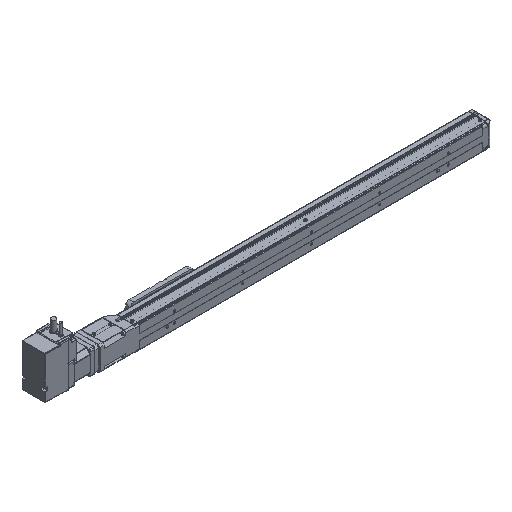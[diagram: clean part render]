
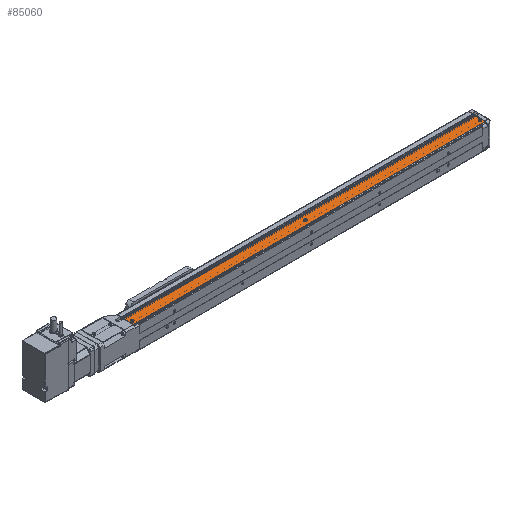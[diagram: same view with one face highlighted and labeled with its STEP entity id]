
A CAD part, isometric view. The second image highlights one B-rep face of the part: STEP entity #85060.
In plain terms, the highlighted planar face has unit normal (0, 0, 1).
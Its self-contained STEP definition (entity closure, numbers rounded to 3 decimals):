
#68324 = PLANE('',#68325);
#68325 = AXIS2_PLACEMENT_3D('',#68326,#68327,#68328);
#68326 = CARTESIAN_POINT('',(-626.5,1.25,21.3));
#68327 = DIRECTION('',(1.,0.,0.));
#68328 = DIRECTION('',(0.,0.,-1.));
#68723 = PLANE('',#68724);
#68724 = AXIS2_PLACEMENT_3D('',#68725,#68726,#68727);
#68725 = CARTESIAN_POINT('',(-9.5,1.25,21.3));
#68726 = DIRECTION('',(1.,0.,0.));
#68727 = DIRECTION('',(0.,0.,-1.));
#84949 = CYLINDRICAL_SURFACE('',#84950,1.);
#84950 = AXIS2_PLACEMENT_3D('',#84951,#84952,#84953);
#84951 = CARTESIAN_POINT('',(-626.5,-20.734,20.5));
#84952 = DIRECTION('',(1.,0.,0.));
#84953 = DIRECTION('',(0.,0.,-1.));
#84987 = VERTEX_POINT('',#84988);
#84988 = CARTESIAN_POINT('',(-9.5,-20.734,21.5));
#85010 = EDGE_CURVE('',#85011,#84987,#85013,.T.);
#85011 = VERTEX_POINT('',#85012);
#85012 = CARTESIAN_POINT('',(-626.5,-20.734,21.5));
#85013 = SURFACE_CURVE('',#85014,(#85018,#85025),.PCURVE_S1.);
#85014 = LINE('',#85015,#85016);
#85015 = CARTESIAN_POINT('',(-626.5,-20.734,21.5));
#85016 = VECTOR('',#85017,1.);
#85017 = DIRECTION('',(1.,0.,0.));
#85018 = PCURVE('',#84949,#85019);
#85019 = DEFINITIONAL_REPRESENTATION('',(#85020),#85024);
#85020 = LINE('',#85021,#85022);
#85021 = CARTESIAN_POINT('',(3.142,0.));
#85022 = VECTOR('',#85023,1.);
#85023 = DIRECTION('',(0.,1.));
#85024 = ( GEOMETRIC_REPRESENTATION_CONTEXT(2) 
PARAMETRIC_REPRESENTATION_CONTEXT() REPRESENTATION_CONTEXT('2D SPACE',''
  ) );
#85025 = PCURVE('',#85026,#85031);
#85026 = PLANE('',#85027);
#85027 = AXIS2_PLACEMENT_3D('',#85028,#85029,#85030);
#85028 = CARTESIAN_POINT('',(-626.5,-2.65,21.5));
#85029 = DIRECTION('',(0.,0.,1.));
#85030 = DIRECTION('',(1.,0.,-0.));
#85031 = DEFINITIONAL_REPRESENTATION('',(#85032),#85036);
#85032 = LINE('',#85033,#85034);
#85033 = CARTESIAN_POINT('',(0.,-18.084));
#85034 = VECTOR('',#85035,1.);
#85035 = DIRECTION('',(1.,0.));
#85036 = ( GEOMETRIC_REPRESENTATION_CONTEXT(2) 
PARAMETRIC_REPRESENTATION_CONTEXT() REPRESENTATION_CONTEXT('2D SPACE',''
  ) );
#85060 = ADVANCED_FACE('',(#85061,#85096,#85127,#85158),#85026,.T.);
#85061 = FACE_BOUND('',#85062,.T.);
#85062 = EDGE_LOOP('',(#85063));
#85063 = ORIENTED_EDGE('',*,*,#85064,.T.);
#85064 = EDGE_CURVE('',#85065,#85065,#85067,.T.);
#85065 = VERTEX_POINT('',#85066);
#85066 = CARTESIAN_POINT('',(-320.25,-13.5,21.5));
#85067 = SURFACE_CURVE('',#85068,(#85073,#85084),.PCURVE_S1.);
#85068 = CIRCLE('',#85069,2.25);
#85069 = AXIS2_PLACEMENT_3D('',#85070,#85071,#85072);
#85070 = CARTESIAN_POINT('',(-318.,-13.5,21.5));
#85071 = DIRECTION('',(0.,0.,-1.));
#85072 = DIRECTION('',(-1.,0.,0.));
#85073 = PCURVE('',#85026,#85074);
#85074 = DEFINITIONAL_REPRESENTATION('',(#85075),#85083);
#85075 = ( BOUNDED_CURVE() B_SPLINE_CURVE(2,(#85076,#85077,#85078,#85079
    ,#85080,#85081,#85082),.UNSPECIFIED.,.T.,.F.) 
B_SPLINE_CURVE_WITH_KNOTS((1,2,2,2,2,1),(-2.094,0.,
    2.094,4.189,6.283,8.378),
.UNSPECIFIED.) CURVE() GEOMETRIC_REPRESENTATION_ITEM() 
RATIONAL_B_SPLINE_CURVE((1.,0.5,1.,0.5,1.,0.5,1.)) REPRESENTATION_ITEM(
  '') );
#85076 = CARTESIAN_POINT('',(306.25,-10.85));
#85077 = CARTESIAN_POINT('',(306.25,-6.953));
#85078 = CARTESIAN_POINT('',(309.625,-8.901));
#85079 = CARTESIAN_POINT('',(313.,-10.85));
#85080 = CARTESIAN_POINT('',(309.625,-12.799));
#85081 = CARTESIAN_POINT('',(306.25,-14.747));
#85082 = CARTESIAN_POINT('',(306.25,-10.85));
#85083 = ( GEOMETRIC_REPRESENTATION_CONTEXT(2) 
PARAMETRIC_REPRESENTATION_CONTEXT() REPRESENTATION_CONTEXT('2D SPACE',''
  ) );
#85084 = PCURVE('',#85085,#85090);
#85085 = CONICAL_SURFACE('',#85086,2.181,0.087);
#85086 = AXIS2_PLACEMENT_3D('',#85087,#85088,#85089);
#85087 = CARTESIAN_POINT('',(-318.,-13.5,22.289));
#85088 = DIRECTION('',(0.,0.,-1.));
#85089 = DIRECTION('',(-1.,0.,0.));
#85090 = DEFINITIONAL_REPRESENTATION('',(#85091),#85095);
#85091 = LINE('',#85092,#85093);
#85092 = CARTESIAN_POINT('',(0.,0.789));
#85093 = VECTOR('',#85094,1.);
#85094 = DIRECTION('',(1.,0.));
#85095 = ( GEOMETRIC_REPRESENTATION_CONTEXT(2) 
PARAMETRIC_REPRESENTATION_CONTEXT() REPRESENTATION_CONTEXT('2D SPACE',''
  ) );
#85096 = FACE_BOUND('',#85097,.T.);
#85097 = EDGE_LOOP('',(#85098));
#85098 = ORIENTED_EDGE('',*,*,#85099,.F.);
#85099 = EDGE_CURVE('',#85100,#85100,#85102,.T.);
#85100 = VERTEX_POINT('',#85101);
#85101 = CARTESIAN_POINT('',(-620.71,-14.5,21.5));
#85102 = SURFACE_CURVE('',#85103,(#85108,#85115),.PCURVE_S1.);
#85103 = CIRCLE('',#85104,2.29);
#85104 = AXIS2_PLACEMENT_3D('',#85105,#85106,#85107);
#85105 = CARTESIAN_POINT('',(-623.,-14.5,21.5));
#85106 = DIRECTION('',(0.,0.,1.));
#85107 = DIRECTION('',(1.,0.,-0.));
#85108 = PCURVE('',#85026,#85109);
#85109 = DEFINITIONAL_REPRESENTATION('',(#85110),#85114);
#85110 = CIRCLE('',#85111,2.29);
#85111 = AXIS2_PLACEMENT_2D('',#85112,#85113);
#85112 = CARTESIAN_POINT('',(3.5,-11.85));
#85113 = DIRECTION('',(1.,0.));
#85114 = ( GEOMETRIC_REPRESENTATION_CONTEXT(2) 
PARAMETRIC_REPRESENTATION_CONTEXT() REPRESENTATION_CONTEXT('2D SPACE',''
  ) );
#85115 = PCURVE('',#85116,#85121);
#85116 = CONICAL_SURFACE('',#85117,2.29,0.087);
#85117 = AXIS2_PLACEMENT_3D('',#85118,#85119,#85120);
#85118 = CARTESIAN_POINT('',(-623.,-14.5,21.5));
#85119 = DIRECTION('',(0.,0.,-1.));
#85120 = DIRECTION('',(-1.,0.,0.));
#85121 = DEFINITIONAL_REPRESENTATION('',(#85122),#85126);
#85122 = LINE('',#85123,#85124);
#85123 = CARTESIAN_POINT('',(9.425,0.));
#85124 = VECTOR('',#85125,1.);
#85125 = DIRECTION('',(-1.,0.));
#85126 = ( GEOMETRIC_REPRESENTATION_CONTEXT(2) 
PARAMETRIC_REPRESENTATION_CONTEXT() REPRESENTATION_CONTEXT('2D SPACE',''
  ) );
#85127 = FACE_BOUND('',#85128,.T.);
#85128 = EDGE_LOOP('',(#85129));
#85129 = ORIENTED_EDGE('',*,*,#85130,.F.);
#85130 = EDGE_CURVE('',#85131,#85131,#85133,.T.);
#85131 = VERTEX_POINT('',#85132);
#85132 = CARTESIAN_POINT('',(-10.71,-14.5,21.5));
#85133 = SURFACE_CURVE('',#85134,(#85139,#85146),.PCURVE_S1.);
#85134 = CIRCLE('',#85135,2.29);
#85135 = AXIS2_PLACEMENT_3D('',#85136,#85137,#85138);
#85136 = CARTESIAN_POINT('',(-13.,-14.5,21.5));
#85137 = DIRECTION('',(0.,0.,1.));
#85138 = DIRECTION('',(1.,0.,-0.));
#85139 = PCURVE('',#85026,#85140);
#85140 = DEFINITIONAL_REPRESENTATION('',(#85141),#85145);
#85141 = CIRCLE('',#85142,2.29);
#85142 = AXIS2_PLACEMENT_2D('',#85143,#85144);
#85143 = CARTESIAN_POINT('',(613.5,-11.85));
#85144 = DIRECTION('',(1.,0.));
#85145 = ( GEOMETRIC_REPRESENTATION_CONTEXT(2) 
PARAMETRIC_REPRESENTATION_CONTEXT() REPRESENTATION_CONTEXT('2D SPACE',''
  ) );
#85146 = PCURVE('',#85147,#85152);
#85147 = CONICAL_SURFACE('',#85148,2.29,0.087);
#85148 = AXIS2_PLACEMENT_3D('',#85149,#85150,#85151);
#85149 = CARTESIAN_POINT('',(-13.,-14.5,21.5));
#85150 = DIRECTION('',(0.,0.,-1.));
#85151 = DIRECTION('',(-1.,0.,0.));
#85152 = DEFINITIONAL_REPRESENTATION('',(#85153),#85157);
#85153 = LINE('',#85154,#85155);
#85154 = CARTESIAN_POINT('',(9.425,0.));
#85155 = VECTOR('',#85156,1.);
#85156 = DIRECTION('',(-1.,0.));
#85157 = ( GEOMETRIC_REPRESENTATION_CONTEXT(2) 
PARAMETRIC_REPRESENTATION_CONTEXT() REPRESENTATION_CONTEXT('2D SPACE',''
  ) );
#85158 = FACE_BOUND('',#85159,.T.);
#85159 = EDGE_LOOP('',(#85160,#85183,#85211,#85232));
#85160 = ORIENTED_EDGE('',*,*,#85161,.F.);
#85161 = EDGE_CURVE('',#85162,#84987,#85164,.T.);
#85162 = VERTEX_POINT('',#85163);
#85163 = CARTESIAN_POINT('',(-9.5,-2.65,21.5));
#85164 = SURFACE_CURVE('',#85165,(#85169,#85176),.PCURVE_S1.);
#85165 = LINE('',#85166,#85167);
#85166 = CARTESIAN_POINT('',(-9.5,-2.65,21.5));
#85167 = VECTOR('',#85168,1.);
#85168 = DIRECTION('',(0.,-1.,0.));
#85169 = PCURVE('',#85026,#85170);
#85170 = DEFINITIONAL_REPRESENTATION('',(#85171),#85175);
#85171 = LINE('',#85172,#85173);
#85172 = CARTESIAN_POINT('',(617.,0.));
#85173 = VECTOR('',#85174,1.);
#85174 = DIRECTION('',(0.,-1.));
#85175 = ( GEOMETRIC_REPRESENTATION_CONTEXT(2) 
PARAMETRIC_REPRESENTATION_CONTEXT() REPRESENTATION_CONTEXT('2D SPACE',''
  ) );
#85176 = PCURVE('',#68723,#85177);
#85177 = DEFINITIONAL_REPRESENTATION('',(#85178),#85182);
#85178 = LINE('',#85179,#85180);
#85179 = CARTESIAN_POINT('',(-0.2,-3.9));
#85180 = VECTOR('',#85181,1.);
#85181 = DIRECTION('',(0.,-1.));
#85182 = ( GEOMETRIC_REPRESENTATION_CONTEXT(2) 
PARAMETRIC_REPRESENTATION_CONTEXT() REPRESENTATION_CONTEXT('2D SPACE',''
  ) );
#85183 = ORIENTED_EDGE('',*,*,#85184,.F.);
#85184 = EDGE_CURVE('',#85185,#85162,#85187,.T.);
#85185 = VERTEX_POINT('',#85186);
#85186 = CARTESIAN_POINT('',(-626.5,-2.65,21.5));
#85187 = SURFACE_CURVE('',#85188,(#85192,#85199),.PCURVE_S1.);
#85188 = LINE('',#85189,#85190);
#85189 = CARTESIAN_POINT('',(-626.5,-2.65,21.5));
#85190 = VECTOR('',#85191,1.);
#85191 = DIRECTION('',(1.,0.,0.));
#85192 = PCURVE('',#85026,#85193);
#85193 = DEFINITIONAL_REPRESENTATION('',(#85194),#85198);
#85194 = LINE('',#85195,#85196);
#85195 = CARTESIAN_POINT('',(0.,0.));
#85196 = VECTOR('',#85197,1.);
#85197 = DIRECTION('',(1.,0.));
#85198 = ( GEOMETRIC_REPRESENTATION_CONTEXT(2) 
PARAMETRIC_REPRESENTATION_CONTEXT() REPRESENTATION_CONTEXT('2D SPACE',''
  ) );
#85199 = PCURVE('',#85200,#85205);
#85200 = CYLINDRICAL_SURFACE('',#85201,0.2);
#85201 = AXIS2_PLACEMENT_3D('',#85202,#85203,#85204);
#85202 = CARTESIAN_POINT('',(-626.5,-2.65,21.3));
#85203 = DIRECTION('',(1.,0.,0.));
#85204 = DIRECTION('',(0.,0.,-1.));
#85205 = DEFINITIONAL_REPRESENTATION('',(#85206),#85210);
#85206 = LINE('',#85207,#85208);
#85207 = CARTESIAN_POINT('',(3.142,0.));
#85208 = VECTOR('',#85209,1.);
#85209 = DIRECTION('',(0.,1.));
#85210 = ( GEOMETRIC_REPRESENTATION_CONTEXT(2) 
PARAMETRIC_REPRESENTATION_CONTEXT() REPRESENTATION_CONTEXT('2D SPACE',''
  ) );
#85211 = ORIENTED_EDGE('',*,*,#85212,.T.);
#85212 = EDGE_CURVE('',#85185,#85011,#85213,.T.);
#85213 = SURFACE_CURVE('',#85214,(#85218,#85225),.PCURVE_S1.);
#85214 = LINE('',#85215,#85216);
#85215 = CARTESIAN_POINT('',(-626.5,-2.65,21.5));
#85216 = VECTOR('',#85217,1.);
#85217 = DIRECTION('',(0.,-1.,0.));
#85218 = PCURVE('',#85026,#85219);
#85219 = DEFINITIONAL_REPRESENTATION('',(#85220),#85224);
#85220 = LINE('',#85221,#85222);
#85221 = CARTESIAN_POINT('',(0.,0.));
#85222 = VECTOR('',#85223,1.);
#85223 = DIRECTION('',(0.,-1.));
#85224 = ( GEOMETRIC_REPRESENTATION_CONTEXT(2) 
PARAMETRIC_REPRESENTATION_CONTEXT() REPRESENTATION_CONTEXT('2D SPACE',''
  ) );
#85225 = PCURVE('',#68324,#85226);
#85226 = DEFINITIONAL_REPRESENTATION('',(#85227),#85231);
#85227 = LINE('',#85228,#85229);
#85228 = CARTESIAN_POINT('',(-0.2,-3.9));
#85229 = VECTOR('',#85230,1.);
#85230 = DIRECTION('',(0.,-1.));
#85231 = ( GEOMETRIC_REPRESENTATION_CONTEXT(2) 
PARAMETRIC_REPRESENTATION_CONTEXT() REPRESENTATION_CONTEXT('2D SPACE',''
  ) );
#85232 = ORIENTED_EDGE('',*,*,#85010,.T.);
